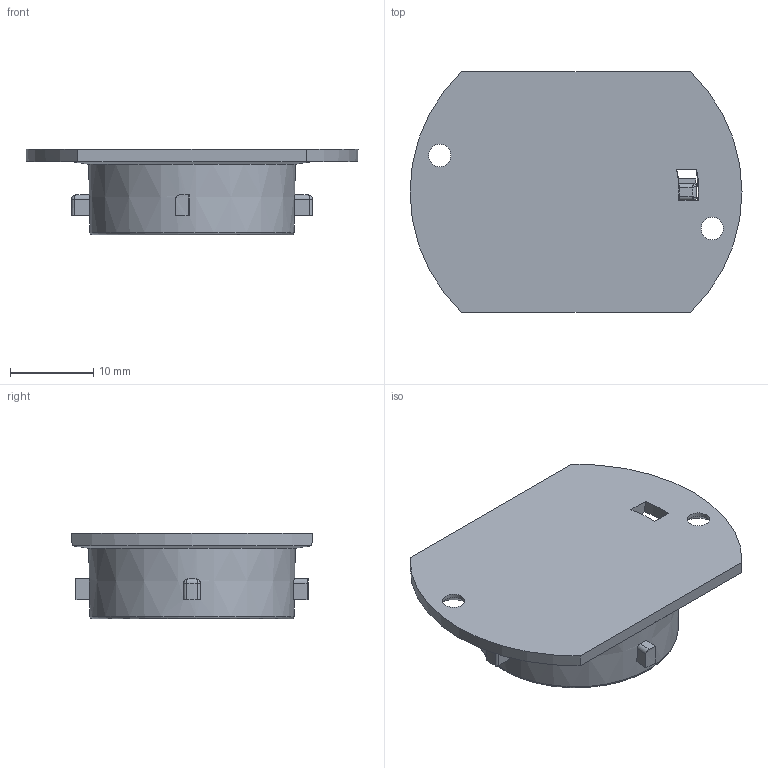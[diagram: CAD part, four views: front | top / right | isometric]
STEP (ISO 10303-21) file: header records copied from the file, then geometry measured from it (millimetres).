
FILE_DESCRIPTION(/* description */ ('Unknown'),/* implementation_level */ '2;1');
FILE_NAME(/* name */ '023-70E-03',/* time_stamp */ '2024-04-22T08:50:20+02:00',/* author */ ('Unknown'),/* organization */ ('Unknown'),/* preprocessor_version */ 'ST-DEVELOPER v16.7',/* originating_system */ 'Solid Edge',/* authorisation */ 'Unknown');
FILE_SCHEMA (('AUTOMOTIVE_DESIGN {1 0 10303 214 3 1 1}'));
Length unit declared in the file: millimetre
Products named in the file (1): 023-70E-03
Bounding box: 40 x 29 x 10.3 mm (x, y, z)
Volume: 5818.4 mm3; surface area: 2975.4 mm2
Topology: 1 solids, 1 shells, 67 faces, 171 edges, 110 vertices
Faces by surface type: plane 33, cylinder 16, cone 8, bspline 7, torus 3
Full cylindrical faces by diameter (mm): 2.7 x2
Entity records: 2289 total; most frequent: CARTESIAN_POINT 770, ORIENTED_EDGE 322, DIRECTION 272, EDGE_CURVE 161, VERTEX_POINT 106, AXIS2_PLACEMENT_3D 105, EDGE_LOOP 83, FACE_BOUND 83
